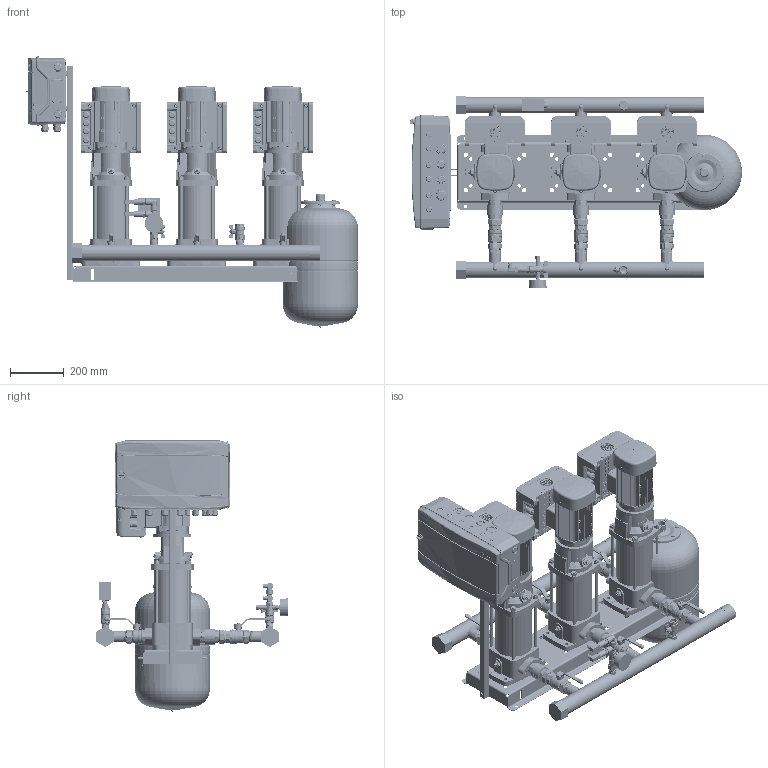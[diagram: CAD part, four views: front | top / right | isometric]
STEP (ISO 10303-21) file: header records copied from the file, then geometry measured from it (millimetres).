
FILE_DESCRIPTION(('CATIA V5 STEP Exchange','CAx-IF Rec.Pracs.--- Model Styling and Organization---1.4--- 2014-01-23','CAx-IF Rec.Pracs.---3D Tessellated Data Validation Properties---0.5---2014-09-14'),'2;1');
FILE_NAME('C:\Users\78432\YandexDisk\Drawings and 3D\3D Hydro Booster\Hydro-ME 3D\Hydro Models\Hydro ME 3 CRV1-xx\Hydro ME 3 CRVE1-13.stp','2023-09-21T08:01:02+00:00',('none'),('none'),'CATIA Version 5-6 Release 2019 SP6','CATIA V5 STEP AP242 v1','none');
FILE_SCHEMA(('AP242_MANAGED_MODEL_BASED_3D_ENGINEERING_MIM_LF {1 0 10303 442 1 1 4}'));
Products named in the file (46): Hydro ME 3 CRVE1-13; 92051012; CRV1-13 Set; CRV 1-13_A_Oval_0.75kW; Base; Oval Flange.1; Oval Flange.2; Sleeve; Pumphead; Staybolt_1; Staybolt_2; Staybolt_3; Staybolt_4; Plug; AirVent; Motor; 92807543_9022-04; Hydraulica NY DN32 1,25 PN16; DN32_FM_LV_47.303.32; 92814060_9013-04; SAJ PDH30 0,75-2,2kW; 97941451; 405801; 91040265; 91040272; 97941488; 00ID7526; Holder and CP 18mod; 92878909; Control ME (18mod); 2 sensors + manometer cpl.; manometr 16 bar; RPD-I-G1_2; 9021-01; 2070 1/2-1/2; _2020 1/2-1/2; 98594078; Tank 24L cpl.; DN20_FF_BF_47.300.20; WAV-24(D140 1'')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
Assembly tree (55 placements, depth 4):
  Hydro ME 3 CRVE1-13
    92051012
    CRV1-13 Set  x3
      CRV 1-13_A_Oval_0.75kW
        Base
        Oval Flange.1
        Oval Flange.2
        Sleeve
        Pumphead
        Staybolt_1
        Staybolt_2
        Staybolt_3
        Staybolt_4
        Plug
        AirVent
        Motor
      92807543_9022-04
      Hydraulica NY DN32 1,25 PN16
      DN32_FM_LV_47.303.32
      92814060_9013-04
      SAJ PDH30 0,75-2,2kW
    97941451  x2
      405801
      91040265
      91040272
      97941488
    00ID7526  x2
    Holder and CP 18mod
      92878909
      Control ME (18mod)
    2 sensors + manometer cpl.
      manometr 16 bar
      RPD-I-G1_2  x2
      9021-01
      2070 1/2-1/2
      _2020 1/2-1/2
      98594078
    Tank 24L cpl.
      DN20_FF_BF_47.300.20
      9021-03
    Relay cpl.
      Relay RD-2R
      DN20_FF_BF_47.300.20
      2530 3/4-1/2
      _2530 1/2-1/4
    91078139
  WAV-24(D140 1'')
Bounding box: 1236.82 x 712 x 1009.9 mm (x, y, z)
Volume: 63863105.9 mm3; surface area: 7158682.1 mm2
Topology: 221 solids, 260 shells, 26113 faces, 76402 edges, 51204 vertices
Faces by surface type: plane 11517, cylinder 6443, bspline 5781, cone 1775, torus 432, sphere 165
Entity records: 563284 total; most frequent: CARTESIAN_POINT 276938, ORIENTED_EDGE 73173, EDGE_CURVE 37068, DIRECTION 34581, VERTEX_POINT 24708, VECTOR 16145, LINE 16145, EDGE_LOOP 14414
